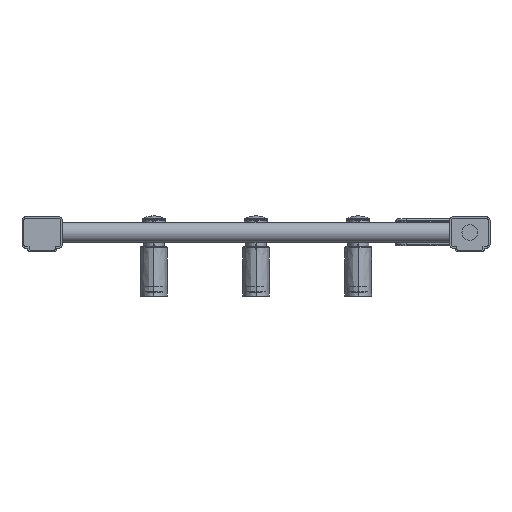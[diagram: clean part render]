
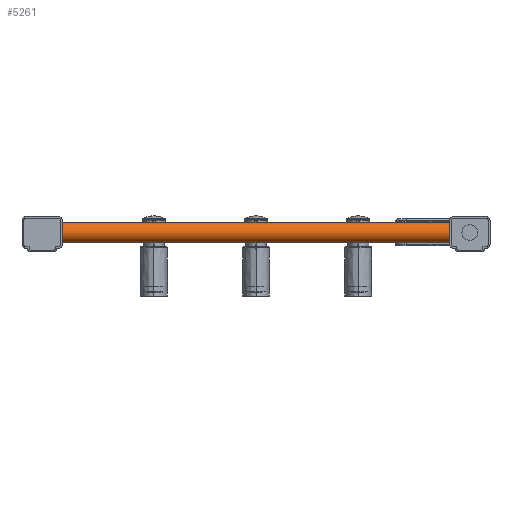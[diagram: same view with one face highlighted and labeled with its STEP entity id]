
A CAD part, front view. The second image highlights one B-rep face of the part: STEP entity #5261.
In plain terms, the highlighted cylindrical face has radius 11 mm (diameter 22 mm), a partial arc.
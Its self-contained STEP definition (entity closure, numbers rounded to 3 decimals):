
#1562=CARTESIAN_POINT('',(-210.,15.5,0.));
#1563=DIRECTION('',(1.,0.,0.));
#1564=DIRECTION('',(0.,0.,1.));
#1565=AXIS2_PLACEMENT_3D('',#1562,#1563,#1564);
#2130=DIRECTION('',(-1.,0.,0.));
#2131=VECTOR('',#2130,420.);
#2132=CARTESIAN_POINT('',(210.,15.5,-11.));
#2133=LINE('',#2132,#2131);
#2137=DIRECTION('',(-1.,0.,0.));
#2138=VECTOR('',#2137,420.);
#2139=CARTESIAN_POINT('',(210.,15.5,11.));
#2140=LINE('',#2139,#2138);
#2173=CARTESIAN_POINT('',(210.,15.5,0.));
#2174=DIRECTION('',(1.,0.,0.));
#2175=DIRECTION('',(0.,0.,1.));
#2176=AXIS2_PLACEMENT_3D('',#2173,#2174,#2175);
#3552=CARTESIAN_POINT('',(-210.,15.5,-11.));
#3553=CARTESIAN_POINT('',(-210.,15.5,11.));
#3554=VERTEX_POINT('',#3552);
#3555=VERTEX_POINT('',#3553);
#3556=CARTESIAN_POINT('',(210.,15.5,-11.));
#3557=CARTESIAN_POINT('',(210.,15.5,11.));
#3558=VERTEX_POINT('',#3556);
#3559=VERTEX_POINT('',#3557);
#5249=CARTESIAN_POINT('',(210.,15.5,0.));
#5250=DIRECTION('',(1.,0.,0.));
#5251=DIRECTION('',(0.,0.,-1.));
#5252=AXIS2_PLACEMENT_3D('',#5249,#5250,#5251);
#5253=CYLINDRICAL_SURFACE('',#5252,11.);
#5254=ORIENTED_EDGE('',*,*,#4982,.F.);
#5255=ORIENTED_EDGE('',*,*,#5244,.F.);
#5257=ORIENTED_EDGE('',*,*,#5256,.T.);
#5258=ORIENTED_EDGE('',*,*,#5240,.T.);
#5259=EDGE_LOOP('',(#5254,#5255,#5257,#5258));
#5260=FACE_OUTER_BOUND('',#5259,.F.);
#1566=CIRCLE('',#1565,11.);
#2177=CIRCLE('',#2176,11.);
#4982=EDGE_CURVE('',#3555,#3554,#1566,.T.);
#5240=EDGE_CURVE('',#3558,#3554,#2133,.T.);
#5244=EDGE_CURVE('',#3559,#3555,#2140,.T.);
#5256=EDGE_CURVE('',#3559,#3558,#2177,.T.);
#5261=ADVANCED_FACE('',(#5260),#5253,.T.);
